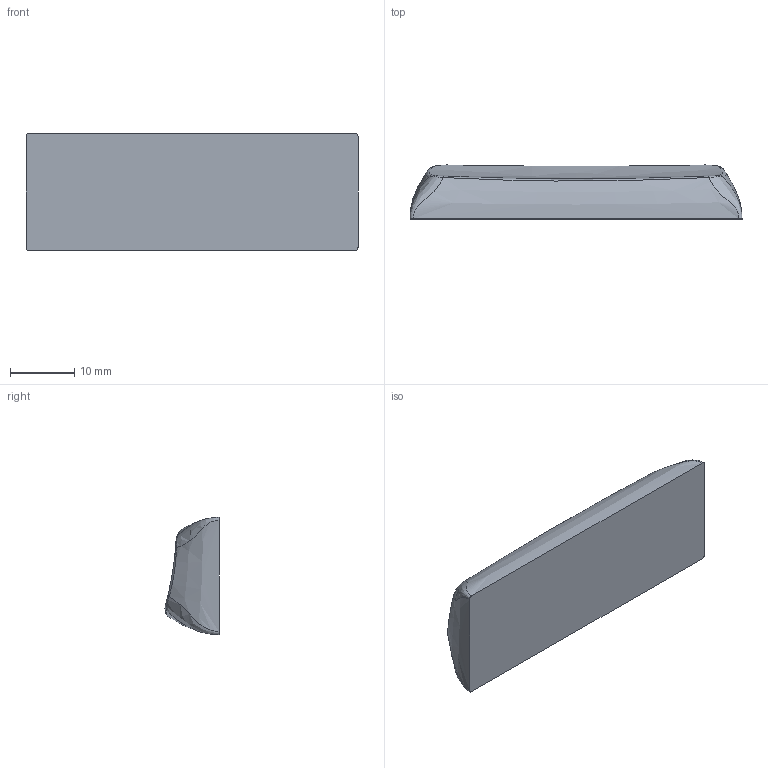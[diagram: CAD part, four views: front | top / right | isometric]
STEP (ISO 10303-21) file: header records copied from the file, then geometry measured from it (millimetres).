
FILE_DESCRIPTION (( 'STEP AP203' ), '1' );
FILE_NAME ('R4_2,75U_base_v3.2_GMK.STEP', '2023-03-07T10:14:22', ( '' ), ( '' ), 'SwSTEP 2.0', 'SolidWorks 2022', '' );
FILE_SCHEMA (( 'CONFIG_CONTROL_DESIGN' ));
Length unit declared in the file: millimetre
Products named in the file (1): R4_2,75U_base_v3.2_GMK
Bounding box: 51.53 x 8.38 x 18.2 mm (x, y, z)
Volume: 5731.2 mm3; surface area: 2544.2 mm2
Topology: 1 solids, 1 shells, 18 faces, 40 edges, 24 vertices
Faces by surface type: bspline 17, plane 1
Entity records: 3322 total; most frequent: CARTESIAN_POINT 2989, ORIENTED_EDGE 80, EDGE_CURVE 40, B_SPLINE_CURVE_WITH_KNOTS 36, VERTEX_POINT 24, EDGE_LOOP 18, FACE_OUTER_BOUND 18, ADVANCED_FACE 18
